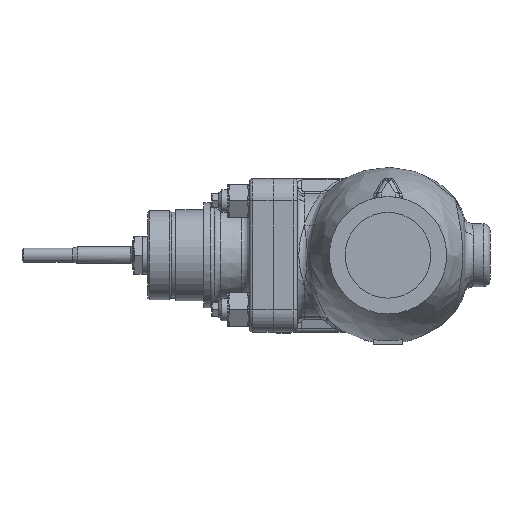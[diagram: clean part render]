
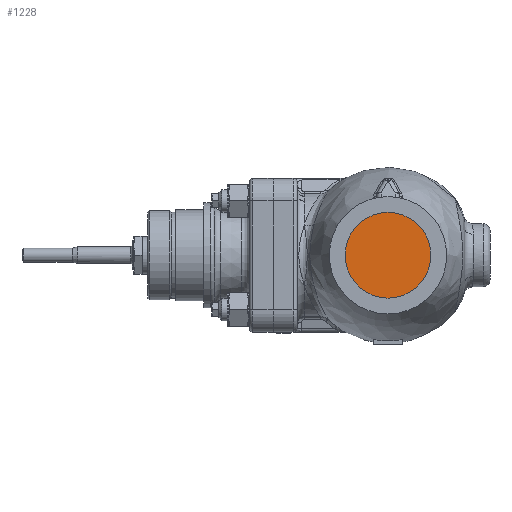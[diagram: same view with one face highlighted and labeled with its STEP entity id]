
A CAD part, left-side view. The second image highlights one B-rep face of the part: STEP entity #1228.
In plain terms, the highlighted planar face has unit normal (-1, 0, 0).
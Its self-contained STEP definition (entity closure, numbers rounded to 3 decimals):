
#294=FACE_OUTER_BOUND('',#2475,.T.);
#1228=ADVANCED_FACE('',(#294),#1519,.F.);
#1519=PLANE('',#6556);
#2475=EDGE_LOOP('',(#3621));
#3621=ORIENTED_EDGE('',*,*,#5484,.T.);
#4782=VERTEX_POINT('',#11848);
#5484=EDGE_CURVE('',#4782,#4782,#6081,.T.);
#6081=CIRCLE('',#6555,30.7);
#6555=AXIS2_PLACEMENT_3D('',#11847,#7666,#7667);
#6556=AXIS2_PLACEMENT_3D('',#11849,#7668,#7669);
#7666=DIRECTION('',(-1.,0.,0.));
#7667=DIRECTION('',(0.,0.,-1.));
#7668=DIRECTION('',(1.,0.,0.));
#7669=DIRECTION('',(0.,0.,-1.));
#11847=CARTESIAN_POINT('',(-127.,0.,0.));
#11848=CARTESIAN_POINT('',(-127.,0.,-30.7));
#11849=CARTESIAN_POINT('',(-127.,0.,0.));
